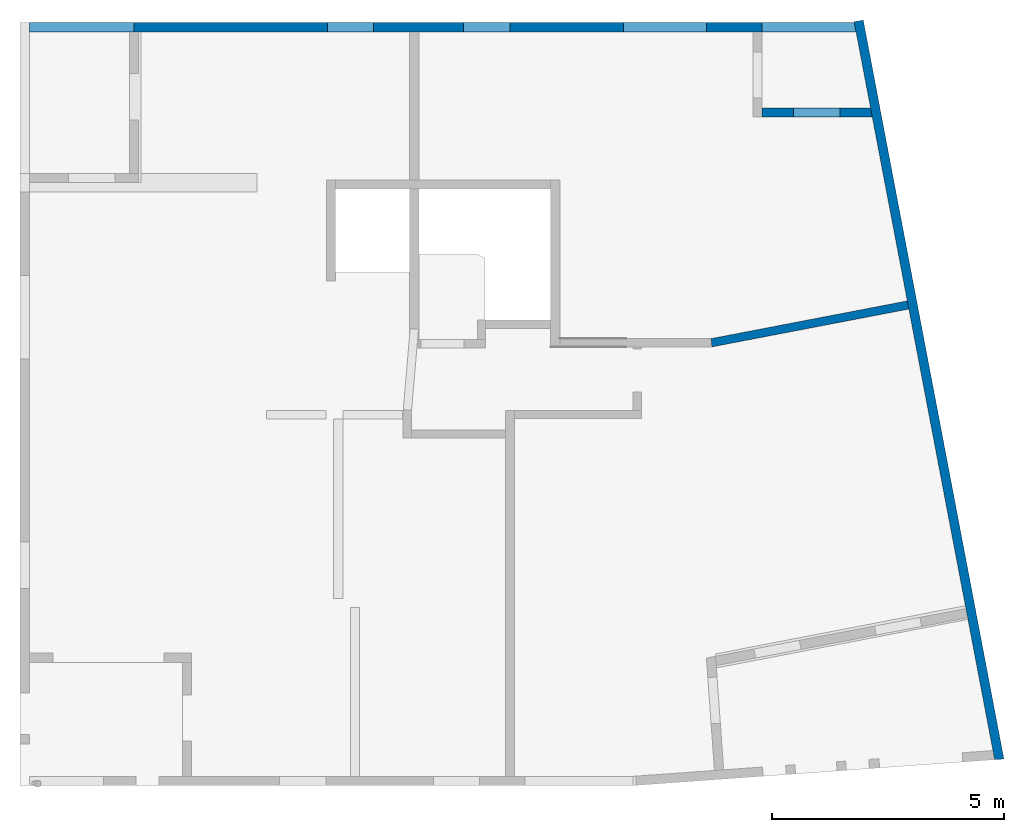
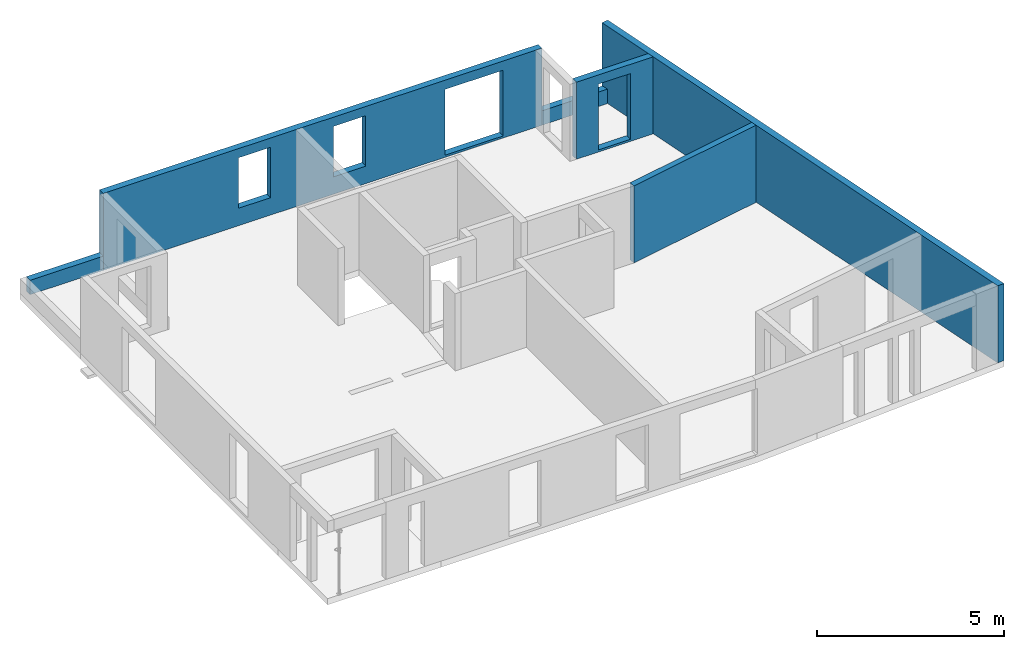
# One storey, part 3 of 3: 6 walls, 4 openings.
"""IFC2X3 building model written with IfcOpenShell, lengths in centimetres."""

from ifc_helpers import new_model, entity, si_unit, converted_unit, derived_unit, direction, frame, frame_2d, origin, place, context, subcontext, project, spatial, polyline, rectangle, outline, extrude, clip, bounded_halfspace, material, layer, layer_set, layer_usage, type_object, element, save


model = new_model("IFC2X3")

# Units and contexts
model_context = context("Model", 3, precision=0.001, world=origin(), true_north=direction((6.12303176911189e-17, 1.0)))
body_context = subcontext(model_context, "Body", "Model", "MODEL_VIEW")
ifc_project = project(units=[si_unit("LENGTHUNIT", "METRE", prefix="CENTI"), si_unit("AREAUNIT", "SQUARE_METRE"), si_unit("VOLUMEUNIT", "CUBIC_METRE"), converted_unit("PLANEANGLEUNIT", "DEGREE", entity("IfcRatioMeasure", 0.0174532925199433), si_unit("PLANEANGLEUNIT", "RADIAN"), dimensions=[0, 0, 0, 0, 0, 0, 0]), si_unit("MASSUNIT", "GRAM", prefix="KILO"), si_unit("TIMEUNIT", "SECOND"), si_unit("FREQUENCYUNIT", "HERTZ"), si_unit("THERMODYNAMICTEMPERATUREUNIT", "DEGREE_CELSIUS"), derived_unit("THERMALTRANSMITTANCEUNIT", [(si_unit("MASSUNIT", "GRAM", prefix="KILO"), 1), (si_unit("THERMODYNAMICTEMPERATUREUNIT", "KELVIN"), -1), (si_unit("TIMEUNIT", "SECOND"), -3)]), derived_unit("VOLUMETRICFLOWRATEUNIT", [(si_unit("LENGTHUNIT", "METRE"), 3), (si_unit("TIMEUNIT", "SECOND"), -1)]), si_unit("ELECTRICCURRENTUNIT", "AMPERE"), si_unit("ELECTRICVOLTAGEUNIT", "VOLT"), si_unit("POWERUNIT", "WATT"), si_unit("FORCEUNIT", "NEWTON"), si_unit("ILLUMINANCEUNIT", "LUX"), si_unit("LUMINOUSFLUXUNIT", "LUMEN"), si_unit("LUMINOUSINTENSITYUNIT", "CANDELA"), derived_unit("USERDEFINED", [(si_unit("MASSUNIT", "GRAM", prefix="KILO"), -1), (si_unit("LENGTHUNIT", "METRE"), -2), (si_unit("TIMEUNIT", "SECOND"), 3), (si_unit("LUMINOUSFLUXUNIT", "LUMEN"), 1)]), derived_unit("LINEARVELOCITYUNIT", [(si_unit("LENGTHUNIT", "METRE"), 1), (si_unit("TIMEUNIT", "SECOND"), -1)]), si_unit("PRESSUREUNIT", "PASCAL"), derived_unit("USERDEFINED", [(si_unit("LENGTHUNIT", "METRE"), -2), (si_unit("MASSUNIT", "GRAM", prefix="KILO"), 1), (si_unit("TIMEUNIT", "SECOND"), -2)])], contexts=[model_context])

# Site, building, storey
site_placement = place(None, origin())
site = spatial("IfcSite", under=ifc_project, at=site_placement, Name="Default", CompositionType="ELEMENT")
building_placement = place(site_placement, origin())
building = spatial("IfcBuilding", under=site, at=building_placement, CompositionType="ELEMENT")
storey_placement = place(building_placement, frame((0.0, 0.0, 272.0)))
storey = spatial("IfcBuildingStorey", under=building, at=storey_placement, Name="R+1", CompositionType="ELEMENT", Elevation=271.999999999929)

# Wall, openings
ifc_material_1 = material(Name="Maçonnerie - Béton")
ifc_layer_1 = layer(ifc_material_1, 20.0)
ifc_layer_set_1 = layer_set([ifc_layer_1], Name="Mur de base:BBM_20")
ifc_layer_usage_1 = layer_usage(ifc_layer_set_1, "AXIS2", "NEGATIVE", 10.0)
wall_type_1 = type_object("IfcWallType", Name="Mur de base:BBM_20", PredefinedType="STANDARD", material=ifc_layer_set_1)
wall_1_placement = place(storey_placement, frame((1112.41125005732, 24844.4146604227, -7.0)))
wall_1 = element("IfcWallStandardCase", 1, at=wall_1_placement, inside=storey, type_object=wall_type_1, material=ifc_layer_usage_1, Name="Mur de base:BBM_20", ObjectType="Mur de base:BBM_20", context=body_context, shape_type="Clipping", body=[
    clip(extrude(rectangle(XDim=1356.37702640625, YDim=19.9999999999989, at=frame_2d((688.188513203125, 1.73283609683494e-12), x_axis=(-1.0, 0.0))), origin(), (0.0, 0.0, 1.0), 252.000000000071), bounded_halfspace(frame((0.0, -10.0, 252.0), z_axis=(0.0, 0.0, -1.0), x_axis=(0.0, -1.0, 0.0)), True, frame((0.0, -10.0, 252.0)), polyline([(0.0, 0.0), (20.0, 0.0), (605.380894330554, 0.0), (625.380894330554, 0.0), (1346.37702640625, 0.0), (1366.37702640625, 0.0), (1366.37702640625, 20.0), (0.0, 20.0), (0.0, 0.0)]))),
])
opening_1_placement = place(wall_1_placement, frame((-1112.41125005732, -24844.4146604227, 7.0)))
element("IfcOpeningElement", 2, at=opening_1_placement, cuts=wall_1, Name="Mur de base:BBM_20", ObjectType="Opening", context=body_context, shape_type="SweptSolid", body=[
    extrude(rectangle(XDim=215.0, YDim=180.0, at=frame_2d((2.8421709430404e-14, 0.0), x_axis=(1.0, 0.0))), frame((2268.78827646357, 24702.0146604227, 107.5), z_axis=(0.0, 1.0, 0.0), x_axis=(0.0, 0.0, -1.0)), (0.0, 0.0, 1.0), 304.8),
])
opening_2_placement = place(wall_1_placement, frame((-1112.41125005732, -24844.4146604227, 7.0)))
element("IfcOpeningElement", 3, at=opening_2_placement, cuts=wall_1, Name="Mur de base:BBM_20", ObjectType="Opening", context=body_context, shape_type="SweptSolid", body=[
    extrude(rectangle(XDim=165.0, YDim=100.0, at=frame_2d((-2.8421709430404e-14, 1.10134124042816e-13), x_axis=(1.0, 0.0))), frame((1883.79214438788, 24702.0146604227, 132.5), z_axis=(0.0, 1.0, 0.0), x_axis=(0.0, 0.0, -1.0)), (0.0, 0.0, 1.0), 304.8),
])
opening_3_placement = place(wall_1_placement, frame((-1112.41125005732, -24844.4146604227, 7.0)))
element("IfcOpeningElement", 4, at=opening_3_placement, cuts=wall_1, Name="Mur de base:BBM_20", ObjectType="Opening", context=body_context, shape_type="SweptSolid", body=[
    extrude(rectangle(XDim=165.0, YDim=99.9999999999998, at=frame_2d((1.10134124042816e-13, 2.8421709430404e-14), x_axis=(0.0, 1.0))), frame((1589.79214438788, 24682.0146604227, 132.5), z_axis=(0.0, 1.0, 0.0), x_axis=(1.0, 0.0, 0.0)), (0.0, 0.0, 1.0), 304.8),
])

# Wall, opening
ifc_layer_usage_2 = layer_usage(ifc_layer_set_1, "AXIS2", "NEGATIVE", 10.0)
wall_2_placement = place(storey_placement, frame((2716.4745952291, 24660.4665988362, -7.0), z_axis=(0.0, 0.0, 1.0), x_axis=(-1.0, 0.0, 0.0)))
wall_2 = element("IfcWallStandardCase", 5, at=wall_2_placement, inside=storey, type_object=wall_type_1, material=ifc_layer_usage_2, Name="Mur de base:BBM_20", ObjectType="Mur de base:BBM_20", context=body_context, shape_type="Clipping", body=[
    clip(extrude(outline(polyline([(237.686318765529, -10.0), (237.686318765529, 10.0), (0.0, 10.0), (3.80870933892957, -10.0), (237.686318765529, -10.0)])), origin(), (0.0, 0.0, 1.0), 252.000000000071), bounded_halfspace(frame((3.80870933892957, -10.0, 252.0), z_axis=(0.0, 0.0, -1.0), x_axis=(0.0, 1.0, 0.0)), True, frame((3.80870933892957, -10.0, 252.0)), polyline([(0.0, 0.0), (233.877609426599, 0.0), (233.877609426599, 20.0), (-3.80870933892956, 20.0), (0.0, 0.0)]))),
])
opening_4_placement = place(wall_2_placement, frame((2716.4745952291, 24660.4665988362, 7.0), z_axis=(0.0, 0.0, 1.0), x_axis=(-1.0, 0.0, 0.0)))
element("IfcOpeningElement", 6, at=opening_4_placement, cuts=wall_2, Name="Mur de base:BBM_20", ObjectType="Opening", context=body_context, shape_type="SweptSolid", body=[
    extrude(rectangle(XDim=215.0, YDim=100.0, at=frame_2d((-4.33431068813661e-13, 2.8421709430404e-14), x_axis=(0.0, 1.0))), frame((2596.78827646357, 24822.8665988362, 107.5), z_axis=(0.0, -1.0, 0.0), x_axis=(-1.0, 0.0, 0.0)), (0.0, 0.0, 1.0), 304.8),
])

# Walls
ifc_layer_usage_3 = layer_usage(ifc_layer_set_1, "AXIS2", "NEGATIVE", 10.0)
wall_3_placement = place(storey_placement, frame((2687.07809573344, 24858.2861485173, -7.0), z_axis=(0.0, 0.0, 1.0), x_axis=(0.187073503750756, -0.982345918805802, 0.0)))
element("IfcWallStandardCase", 7, at=wall_3_placement, inside=storey, type_object=wall_type_1, material=ifc_layer_usage_3, Name="Mur de base:BBM_20", ObjectType="Mur de base:BBM_20", context=body_context, shape_type="Clipping", body=[
    clip(clip(clip(extrude(outline(polyline([(1621.94636456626, -10.0), (1624.28965271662, 10.0), (0.0, 10.0), (0.0, -10.0), (2.03670928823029, -10.0), (22.396136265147, -10.0), (189.290565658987, -10.0), (209.649992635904, -10.0), (613.533156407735, -10.0), (631.533181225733, -10.0), (1283.44648896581, -10.0), (1289.8215560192, -10.0), (1309.8215560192, -10.0), (1313.44658223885, -10.0), (1601.80955748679, -10.0), (1621.94636456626, -10.0)])), origin(), (0.0, 0.0, 1.0), 252.000000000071), bounded_halfspace(frame((14.6877940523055, -10.0, 252.0), z_axis=(0.0, 0.0, -1.0), x_axis=(-0.982345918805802, 0.187073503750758, 0.0)), True, frame((14.6877940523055, -10.0, 252.0)), polyline([(0.0, 0.0), (32.4482583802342, 0.0), (36.2569677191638, 20.0), (3.80870933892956, 20.0), (0.0, 0.0)]))), bounded_halfspace(frame((47.1360524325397, -10.0, 252.0), z_axis=(0.0, 0.0, -1.0), x_axis=(0.982345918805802, -0.187073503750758, 0.0)), True, frame((47.1360524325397, -10.0, 252.0)), polyline([(0.0, 0.0), (142.15451322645, 0.0), (162.513940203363, 0.0), (566.397103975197, 0.0), (584.397128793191, 0.0), (1242.68550358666, 0.0), (1262.68550358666, 0.0), (1262.68550358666, 20.0), (3.80870933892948, 20.0), (0.0, 0.0)]))), bounded_halfspace(frame((1309.8215560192, -10.0, 252.0), z_axis=(0.0, 0.0, -1.0), x_axis=(1.0, 0.0, 0.0)), True, frame((1309.8215560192, -10.0, 252.0)), polyline([(0.0, 0.0), (291.988001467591, 0.0), (311.982580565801, 0.0), (314.325868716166, 20.0), (0.0, 20.0), (0.0, 0.0)]))),
])
ifc_layer_usage_4 = layer_usage(ifc_layer_set_1, "AXIS2", "NEGATIVE", 10.0)
wall_4_placement = place(storey_placement, frame((896.385889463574, 24844.4143798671, -7.0)))
element("IfcWallStandardCase", 8, at=wall_4_placement, inside=storey, type_object=wall_type_1, material=ifc_layer_usage_4, Name="Mur de base:BBM_20", ObjectType="Mur de base:BBM_20", context=body_context, shape_type="SweptSolid", body=[
    extrude(rectangle(XDim=226.02536059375, YDim=20.0000000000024, at=frame_2d((113.012680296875, 0.0), x_axis=(-1.0, 0.0))), origin(), (0.0, 0.0, 1.0), 46.9999999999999),
])
ifc_layer_usage_5 = layer_usage(ifc_layer_set_1, "AXIS2", "NEGATIVE", 10.0)
wall_5_placement = place(storey_placement, frame((2478.78827646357, 24844.4146604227, -7.0)))
element("IfcWallStandardCase", 9, at=wall_5_placement, inside=storey, type_object=wall_type_1, material=ifc_layer_usage_5, Name="Mur de base:BBM_20", ObjectType="Mur de base:BBM_20", context=body_context, shape_type="SweptSolid", body=[
    extrude(outline(polyline([(202.65608376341, -10.0), (198.847374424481, 10.0), (0.0, 10.0), (0.0, -10.0), (202.65608376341, -10.0)])), origin(), (0.0, 0.0, 1.0), 46.9999999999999),
])
ifc_material_2 = material(Name="Béton_C25/30")
ifc_layer_2 = layer(ifc_material_2, 18.0)
ifc_layer_set_2 = layer_set([ifc_layer_2], Name="Mur de base:VOILE_18_C25/30")
ifc_layer_usage_6 = layer_usage(ifc_layer_set_2, "AXIS2", "NEGATIVE", 9.0)
wall_type_2 = type_object("IfcWallType", Name="Mur de base:VOILE_18_C25/30", PredefinedType="STANDARD", material=ifc_layer_set_2)
wall_6_placement = place(storey_placement, frame((2368.3930058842, 24163.1441460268, -7.0), z_axis=(0.0, 0.0, 1.0), x_axis=(0.982033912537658, 0.188704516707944, 0.0)))
element("IfcWallStandardCase", 10, at=wall_6_placement, inside=storey, type_object=wall_type_2, material=ifc_layer_usage_6, Name="Mur de base:VOILE_18_C25/30", ObjectType="Mur de base:VOILE_18_C25/30", context=body_context, shape_type="Clipping", body=[
    clip(extrude(outline(polyline([(433.087299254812, -9.0), (433.117189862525, 9.0), (1.71373520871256, 9.0), (0.0, -9.0), (433.087299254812, -9.0)])), origin(), (0.0, 0.0, 1.0), 252.000000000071), bounded_halfspace(frame((0.0, -9.0, 252.0), z_axis=(0.0, 0.0, -1.0), x_axis=(-0.188704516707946, -0.982033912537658, 0.0)), True, frame((0.0, -9.0, 252.0)), polyline([(0.0, 0.0), (433.087299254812, 0.0), (433.117189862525, 18.0), (1.71373520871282, 18.0), (0.0, 0.0)]))),
])

save(model, "model.ifc")
